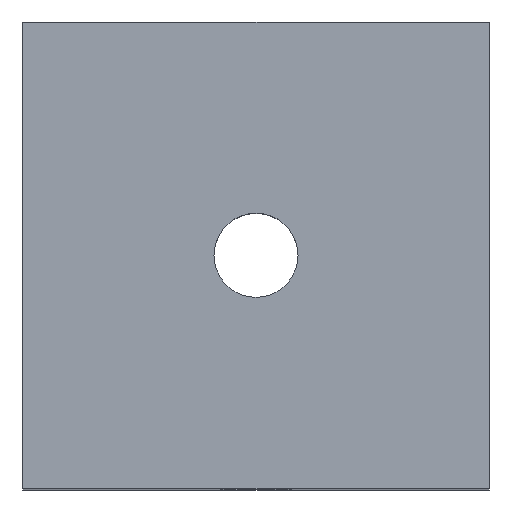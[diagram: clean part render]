
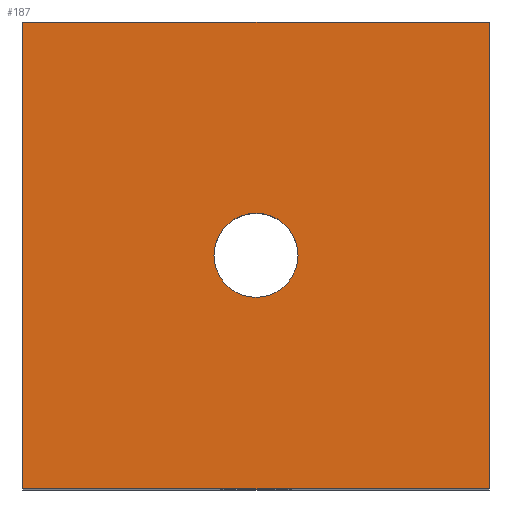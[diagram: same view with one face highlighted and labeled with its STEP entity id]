
A CAD part, top view. The second image highlights one B-rep face of the part: STEP entity #187.
In plain terms, the highlighted planar face has unit normal (0, 0, 1).
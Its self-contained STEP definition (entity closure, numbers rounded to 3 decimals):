
#15=FACE_BOUND('',#40,.T.);
#20=PLANE('',#222);
#29=FACE_OUTER_BOUND('',#39,.T.);
#39=EDGE_LOOP('',(#143,#144,#145,#146));
#40=EDGE_LOOP('',(#147));
#54=LINE('',#296,#74);
#56=LINE('',#300,#76);
#57=LINE('',#302,#77);
#58=LINE('',#303,#78);
#74=VECTOR('',#245,10.);
#76=VECTOR('',#249,10.);
#77=VECTOR('',#250,10.);
#78=VECTOR('',#251,10.);
#91=CIRCLE('',#219,2.25);
#95=VERTEX_POINT('',#284);
#99=VERTEX_POINT('',#293);
#100=VERTEX_POINT('',#295);
#101=VERTEX_POINT('',#299);
#102=VERTEX_POINT('',#301);
#111=EDGE_CURVE('',#95,#95,#91,.T.);
#116=EDGE_CURVE('',#100,#99,#54,.T.);
#118=EDGE_CURVE('',#99,#101,#56,.T.);
#119=EDGE_CURVE('',#101,#102,#57,.T.);
#120=EDGE_CURVE('',#102,#100,#58,.T.);
#143=ORIENTED_EDGE('',*,*,#118,.T.);
#144=ORIENTED_EDGE('',*,*,#119,.T.);
#145=ORIENTED_EDGE('',*,*,#120,.T.);
#146=ORIENTED_EDGE('',*,*,#116,.T.);
#147=ORIENTED_EDGE('',*,*,#111,.T.);
#187=ADVANCED_FACE('',(#29,#15),#20,.T.);
#219=AXIS2_PLACEMENT_3D('',#285,#236,#237);
#222=AXIS2_PLACEMENT_3D('',#298,#247,#248);
#236=DIRECTION('center_axis',(0.,0.,-1.));
#237=DIRECTION('ref_axis',(-1.,0.,0.));
#245=DIRECTION('',(-1.,0.,0.));
#247=DIRECTION('center_axis',(0.,0.,1.));
#248=DIRECTION('ref_axis',(1.,0.,0.));
#249=DIRECTION('',(0.,-1.,0.));
#250=DIRECTION('',(1.,0.,0.));
#251=DIRECTION('',(0.,1.,0.));
#284=CARTESIAN_POINT('',(-10.25,12.5,0.));
#285=CARTESIAN_POINT('Origin',(-12.5,12.5,0.));
#293=CARTESIAN_POINT('',(-25.,25.,0.));
#295=CARTESIAN_POINT('',(0.,25.,0.));
#296=CARTESIAN_POINT('',(0.,25.,0.));
#298=CARTESIAN_POINT('Origin',(-12.5,12.5,0.));
#299=CARTESIAN_POINT('',(-25.,0.,0.));
#300=CARTESIAN_POINT('',(-25.,25.,0.));
#301=CARTESIAN_POINT('',(0.,0.,0.));
#302=CARTESIAN_POINT('',(-25.,0.,0.));
#303=CARTESIAN_POINT('',(0.,0.,0.));
